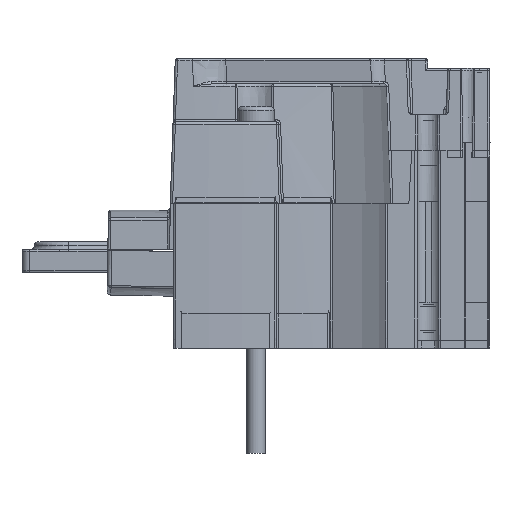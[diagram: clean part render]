
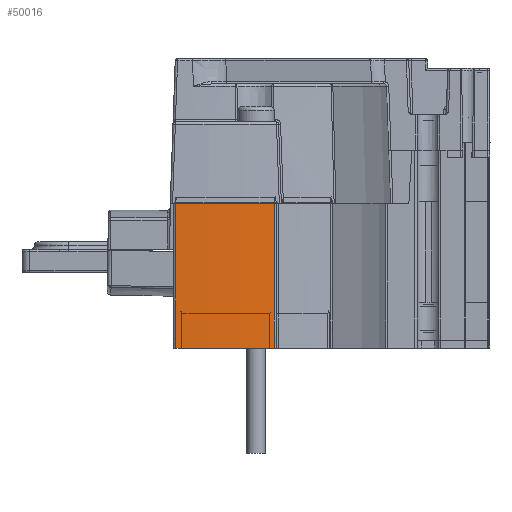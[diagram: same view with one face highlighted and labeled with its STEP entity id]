
A CAD part, left-side view. The second image highlights one B-rep face of the part: STEP entity #50016.
In plain terms, the highlighted cylindrical face has radius 231.708 mm (diameter 463.416 mm), a partial arc.
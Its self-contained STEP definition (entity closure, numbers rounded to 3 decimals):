
#4507=CARTESIAN_POINT('',(-159.703,64.72,-37.));
#4509=CARTESIAN_POINT('',(72.,66.2,-37.));
#4510=DIRECTION('',(0.,0.,1.));
#4511=DIRECTION('',(-1.,-0.006,0.));
#4512=AXIS2_PLACEMENT_3D('',#4509,#4510,#4511);
#5710=DIRECTION('',(0.,0.,1.));
#5711=VECTOR('',#5710,38.656);
#5712=CARTESIAN_POINT('',(-158.167,39.523,-37.));
#5713=LINE('',#5712,#5711);
#5714=CARTESIAN_POINT('',(72.,66.2,1.656));
#5715=DIRECTION('',(0.,0.,1.));
#5716=DIRECTION('',(-1.,-0.007,0.));
#5717=AXIS2_PLACEMENT_3D('',#5714,#5715,#5716);
#5746=DIRECTION('',(0.,0.,1.));
#5747=VECTOR('',#5746,38.571);
#5748=CARTESIAN_POINT('',(-159.703,64.72,-37.));
#5749=LINE('',#5748,#5747);
#9375=CARTESIAN_POINT('',(-159.703,64.72,1.571));
#9391=CARTESIAN_POINT('',(-159.702,64.61,1.656));
#9392=CARTESIAN_POINT('',(-159.703,64.625,1.656));
#9393=CARTESIAN_POINT('',(-159.703,64.652,1.645));
#9394=CARTESIAN_POINT('',(-159.703,64.689,1.612));
#9395=CARTESIAN_POINT('',(-159.703,64.71,1.585));
#9396=CARTESIAN_POINT('',(-159.703,64.72,1.571));
#40089=VERTEX_POINT('',#4507);
#40090=CARTESIAN_POINT('',(-158.167,39.523,-37.));
#40091=VERTEX_POINT('',#40090);
#40334=CARTESIAN_POINT('',(-159.702,64.61,
1.656));
#40335=CARTESIAN_POINT('',(-158.167,39.523,
1.656));
#40336=VERTEX_POINT('',#40334);
#40337=VERTEX_POINT('',#40335);
#40359=VERTEX_POINT('',#9375);
#50002=CARTESIAN_POINT('',(72.,66.2,-37.));
#50003=DIRECTION('',(0.,0.,1.));
#50004=DIRECTION('',(-1.,0.,0.));
#50005=AXIS2_PLACEMENT_3D('',#50002,#50003,#50004);
#50006=CYLINDRICAL_SURFACE('',#50005,231.708);
#50007=ORIENTED_EDGE('',*,*,#49990,.T.);
#50008=ORIENTED_EDGE('',*,*,#49980,.F.);
#50009=ORIENTED_EDGE('',*,*,#49107,.F.);
#50011=ORIENTED_EDGE('',*,*,#50010,.T.);
#50013=ORIENTED_EDGE('',*,*,#50012,.F.);
#50014=EDGE_LOOP('',(#50007,#50008,#50009,#50011,#50013));
#50015=FACE_OUTER_BOUND('',#50014,.F.);
#50016=ADVANCED_FACE('',(#50015),#50006,.T.);
#4513=CIRCLE('',#4512,231.708);
#5718=CIRCLE('',#5717,231.708);
#9397=B_SPLINE_CURVE_WITH_KNOTS('',3,(#9391,#9392,#9393,#9394,#9395,#9396),
.UNSPECIFIED.,.F.,.F.,(4,1,1,4),(0.,0.333,0.667,1.),
.UNSPECIFIED.);
#49107=EDGE_CURVE('',#40089,#40091,#4513,.T.);
#49980=EDGE_CURVE('',#40091,#40337,#5713,.T.);
#49990=EDGE_CURVE('',#40336,#40337,#5718,.T.);
#50010=EDGE_CURVE('',#40089,#40359,#5749,.T.);
#50012=EDGE_CURVE('',#40336,#40359,#9397,.T.);
